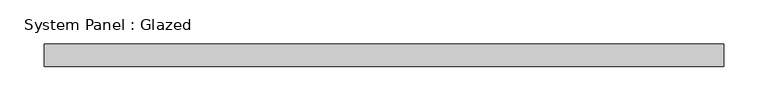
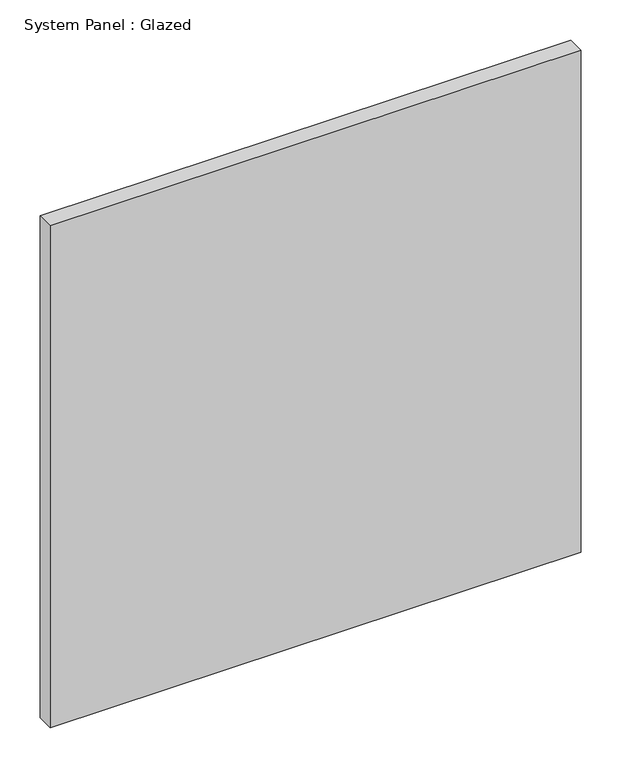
"""IFC4 building model written with IfcOpenShell, lengths in millimetres: plate geometry, System Panel : Glazed."""

from ifc_helpers import new_model, si_unit, origin, origin_with_axes, place, context, project, spatial, polyline, outline, extrude, source, transform, mapped, element, save


def system_panel_glazed_0caff73c(model_context):
    return source(origin(), model_context, "Body", "SweptSolid", [
        extrude(outline(polyline([(382.7564098, 24.5), (-382.7564098, 24.5), (-382.7564098, 49.5), (382.7564098, 49.5), (382.7564098, 24.5)])), origin_with_axes(), (0.0, 0.0, 1.0), 765.0),
    ])


if __name__ == "__main__":
    model = new_model("IFC4")
    model_context = context("Model", 3, world=origin())
    ifc_project = project(units=[si_unit("LENGTHUNIT", "METRE", prefix="MILLI")], contexts=[model_context])
    site = spatial("IfcSite", under=ifc_project)
    building = spatial("IfcBuilding", under=site)
    placement = place(None, origin())
    system_panel_glazed_shape = system_panel_glazed_0caff73c(model_context)
    element("IfcPlate", 1, ObjectType="System Panel : Glazed", at=placement, inside=building, context=model_context, shape_type="MappedRepresentation", body=[
        mapped(system_panel_glazed_shape, transform((0.0, 0.0, 0.0), x_axis=(1.0, 0.0, 0.0), y_axis=(0.0, 1.0, 0.0), z_axis=(0.0, 0.0, 1.0))),
    ])
    save(model, "model.ifc")
